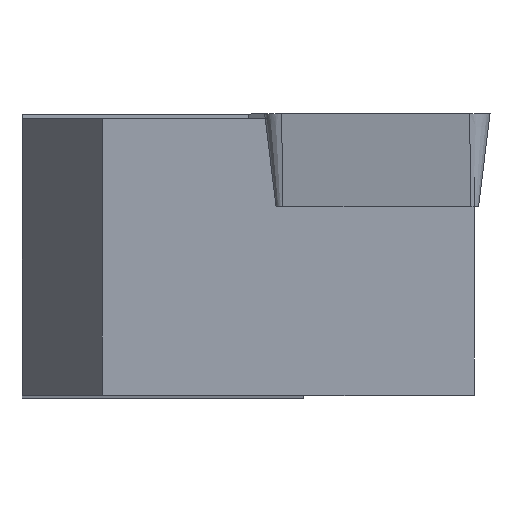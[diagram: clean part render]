
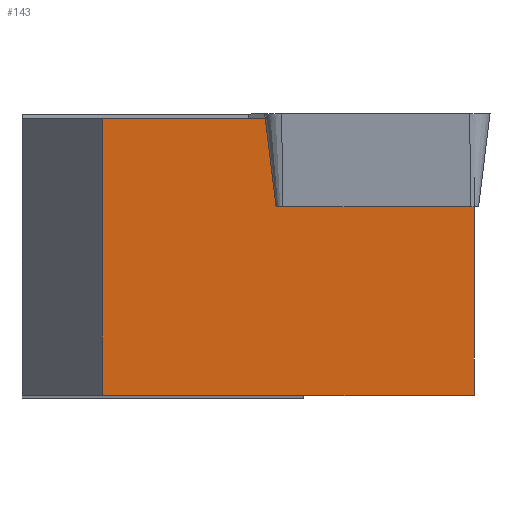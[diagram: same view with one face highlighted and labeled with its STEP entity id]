
A CAD part, top view. The second image highlights one B-rep face of the part: STEP entity #143.
In plain terms, the highlighted planar face has unit normal (-0.087, 0, 0.996).
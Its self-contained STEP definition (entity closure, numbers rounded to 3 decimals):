
#121=PLANE('',#509);
#143=ADVANCED_FACE('',(#166),#121,.F.);
#166=FACE_OUTER_BOUND('',#191,.T.);
#191=EDGE_LOOP('',(#373,#374,#375,#376));
#215=LINE('',#688,#257);
#227=LINE('',#712,#269);
#233=LINE('',#724,#275);
#234=LINE('',#726,#276);
#257=VECTOR('',#577,1.);
#269=VECTOR('',#599,1.);
#275=VECTOR('',#611,1.);
#276=VECTOR('',#614,1.);
#373=ORIENTED_EDGE('',*,*,#466,.T.);
#374=ORIENTED_EDGE('',*,*,#460,.F.);
#375=ORIENTED_EDGE('',*,*,#467,.T.);
#376=ORIENTED_EDGE('',*,*,#448,.F.);
#399=VERTEX_POINT('',#676);
#405=VERTEX_POINT('',#687);
#413=VERTEX_POINT('',#713);
#414=VERTEX_POINT('',#714);
#448=EDGE_CURVE('',#405,#399,#215,.T.);
#460=EDGE_CURVE('',#413,#414,#227,.T.);
#466=EDGE_CURVE('',#405,#414,#233,.T.);
#467=EDGE_CURVE('',#413,#399,#234,.T.);
#509=AXIS2_PLACEMENT_3D('',#727,#615,#616);
#577=DIRECTION('',(-0.996,0.,-0.087));
#599=DIRECTION('',(0.996,0.,0.087));
#611=DIRECTION('',(0.,1.,0.));
#614=DIRECTION('',(0.,-1.,0.));
#615=DIRECTION('',(0.087,0.,-0.996));
#616=DIRECTION('',(-0.996,0.,-0.087));
#676=CARTESIAN_POINT('',(-6.57,-6.,-2.001));
#687=CARTESIAN_POINT('',(9.287,-6.,-0.614));
#688=CARTESIAN_POINT('',(-12.372,-6.,-2.509));
#712=CARTESIAN_POINT('',(-9.8,5.8,-2.284));
#713=CARTESIAN_POINT('',(-6.57,5.8,-2.001));
#714=CARTESIAN_POINT('',(9.287,5.8,-0.614));
#724=CARTESIAN_POINT('',(9.287,-6.,-0.614));
#726=CARTESIAN_POINT('',(-6.57,-6.,-2.001));
#727=CARTESIAN_POINT('',(-12.372,-6.,-2.509));
